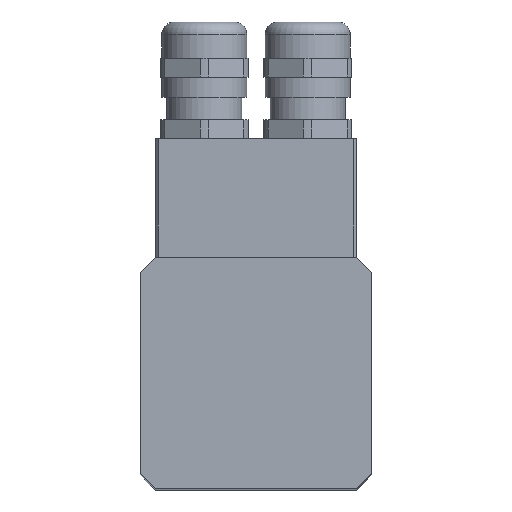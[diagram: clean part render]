
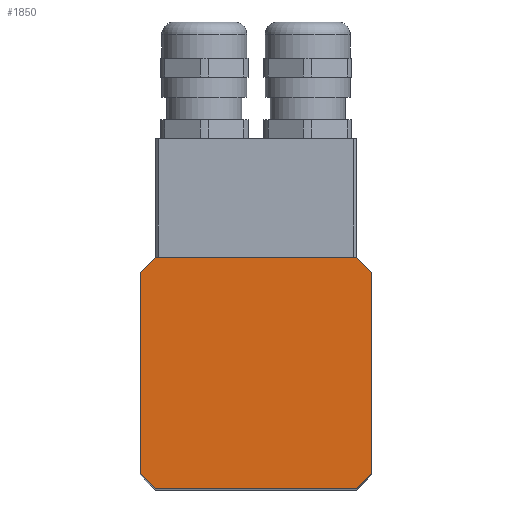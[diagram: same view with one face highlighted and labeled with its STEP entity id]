
A CAD part, top view. The second image highlights one B-rep face of the part: STEP entity #1850.
In plain terms, the highlighted planar face has unit normal (0, 0, 1).
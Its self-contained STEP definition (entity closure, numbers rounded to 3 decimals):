
#1519=CARTESIAN_POINT('',(-18.5,16.062,111.));
#1520=VERTEX_POINT('',#1519);
#1529=CARTESIAN_POINT('',(-16.062,18.5,111.));
#1530=VERTEX_POINT('',#1529);
#1531=CARTESIAN_POINT('',(0.0,0.0,111.));
#1532=DIRECTION('',(0.0,0.0,1.0));
#1533=DIRECTION('',(1.0,0.0,0.0));
#1534=AXIS2_PLACEMENT_3D('',#1531,#1532,#1533);
#1535=CIRCLE('',#1534,24.5);
#1536=EDGE_CURVE('',#1530,#1520,#1535,.T.);
#1563=CARTESIAN_POINT('',(18.5,16.062,111.));
#1564=VERTEX_POINT('',#1563);
#1580=CARTESIAN_POINT('',(16.062,18.5,111.));
#1581=VERTEX_POINT('',#1580);
#1588=CARTESIAN_POINT('',(0.0,0.0,111.));
#1589=DIRECTION('',(0.0,0.0,1.0));
#1590=DIRECTION('',(1.0,0.0,0.0));
#1591=AXIS2_PLACEMENT_3D('',#1588,#1589,#1590);
#1592=CIRCLE('',#1591,24.5);
#1593=EDGE_CURVE('',#1564,#1581,#1592,.T.);
#1603=CARTESIAN_POINT('',(-16.062,-18.5,111.));
#1604=VERTEX_POINT('',#1603);
#1613=CARTESIAN_POINT('',(-18.5,-16.062,111.));
#1614=VERTEX_POINT('',#1613);
#1615=CARTESIAN_POINT('',(0.0,0.0,111.));
#1616=DIRECTION('',(0.0,0.0,1.0));
#1617=DIRECTION('',(1.0,0.0,0.0));
#1618=AXIS2_PLACEMENT_3D('',#1615,#1616,#1617);
#1619=CIRCLE('',#1618,24.5);
#1620=EDGE_CURVE('',#1614,#1604,#1619,.T.);
#1645=CARTESIAN_POINT('',(18.5,-16.062,111.));
#1646=VERTEX_POINT('',#1645);
#1655=CARTESIAN_POINT('',(16.062,-18.5,111.));
#1656=VERTEX_POINT('',#1655);
#1657=CARTESIAN_POINT('',(0.0,0.0,111.));
#1658=DIRECTION('',(0.0,0.0,1.0));
#1659=DIRECTION('',(1.0,0.0,0.0));
#1660=AXIS2_PLACEMENT_3D('',#1657,#1658,#1659);
#1661=CIRCLE('',#1660,24.5);
#1662=EDGE_CURVE('',#1656,#1646,#1661,.T.);
#1695=CARTESIAN_POINT('',(-18.5,-16.062,111.));
#1696=DIRECTION('',(0.0,1.0,0.0));
#1697=VECTOR('',#1696,32.125);
#1698=LINE('',#1695,#1697);
#1699=EDGE_CURVE('',#1614,#1520,#1698,.T.);
#1729=CARTESIAN_POINT('',(16.062,-18.5,111.));
#1730=DIRECTION('',(-1.0,0.0,0.0));
#1731=VECTOR('',#1730,32.125);
#1732=LINE('',#1729,#1731);
#1733=EDGE_CURVE('',#1656,#1604,#1732,.T.);
#1785=CARTESIAN_POINT('',(18.5,16.062,111.));
#1786=DIRECTION('',(0.0,-1.0,0.0));
#1787=VECTOR('',#1786,32.125);
#1788=LINE('',#1785,#1787);
#1789=EDGE_CURVE('',#1564,#1646,#1788,.T.);
#1814=CARTESIAN_POINT('',(-16.062,18.5,111.));
#1815=DIRECTION('',(1.0,0.0,0.0));
#1816=VECTOR('',#1815,32.125);
#1817=LINE('',#1814,#1816);
#1818=EDGE_CURVE('',#1530,#1581,#1817,.T.);
#1835=CARTESIAN_POINT('',(0.,0.,111.));
#1836=DIRECTION('',(0.0,0.0,1.0));
#1837=DIRECTION('',(1.0,0.0,0.0));
#1838=AXIS2_PLACEMENT_3D('',#1835,#1836,#1837);
#1839=PLANE('',#1838);
#1840=ORIENTED_EDGE('',*,*,#1536,.T.);
#1841=ORIENTED_EDGE('',*,*,#1699,.F.);
#1842=ORIENTED_EDGE('',*,*,#1620,.T.);
#1843=ORIENTED_EDGE('',*,*,#1733,.F.);
#1844=ORIENTED_EDGE('',*,*,#1662,.T.);
#1845=ORIENTED_EDGE('',*,*,#1789,.F.);
#1846=ORIENTED_EDGE('',*,*,#1593,.T.);
#1847=ORIENTED_EDGE('',*,*,#1818,.F.);
#1848=EDGE_LOOP('',(#1840,#1841,#1842,#1843,#1844,#1845,#1846,#1847));
#1849=FACE_OUTER_BOUND('',#1848,.T.);
#1850=ADVANCED_FACE('',(#1849),#1839,.T.);
